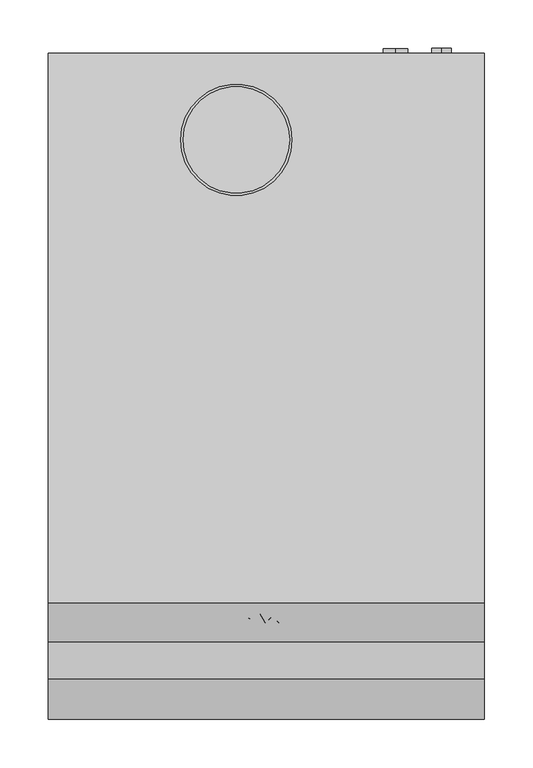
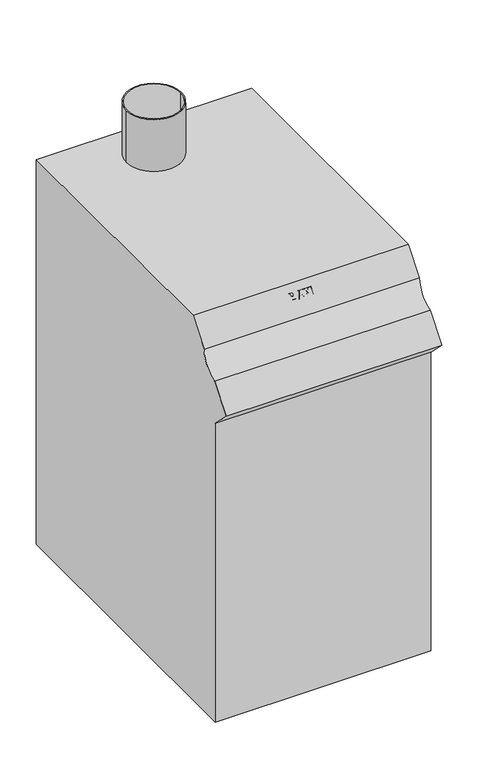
"""IFC4 building model written with IfcOpenShell, lengths in millimetres: proxy geometry, BAXI_ГазовыйКотел_Power_HT_45-150 : BAXI_Газовый котел_Power_HT_1.650."""

import ifcopenshell
import ifcopenshell.guid

model = None  # the IFC model being written
_history = None  # IfcOwnerHistory: only IFC2X3 demands one
_inside = {}  # id of a spatial element -> (the spatial element, [elements in it])
_under = {}  # id of a project, library or spatial element -> (it, [spatial elements below it])
_declared = {}  # id of a project -> (the project, [libraries it declares])
_typed = {}  # id of a type object -> (the type object, [elements of that type])
_made_of = {}  # id of a material, layer set ... -> (it, [elements and type objects made of it])


def new_model(schema):
    """Start an empty IFC model of exactly this schema.

    Asked for "IFC4X3", IfcOpenShell would pick the latest addendum, in which some entities
    have other attributes; the version numbers below select the first issue.
    IFC2X3 requires an IfcOwnerHistory on every rooted entity: one is made here for all.
    """
    global model, _history
    if schema == "IFC4X3":
        model = ifcopenshell.file(schema_version=(4, 3, 0, 0))
    else:
        model = ifcopenshell.file(schema=schema)
    _inside.clear()
    _under.clear()
    _declared.clear()
    _typed.clear()
    _made_of.clear()
    _history = None
    if model.schema == "IFC2X3":
        org = make("IfcOrganization", Name="unknown")
        user = make(
            "IfcPersonAndOrganization",
            ThePerson=make("IfcPerson", FamilyName="unknown"),
            TheOrganization=org,
        )
        app = make(
            "IfcApplication",
            ApplicationDeveloper=org,
            Version="unknown",
            ApplicationFullName="unknown",
            ApplicationIdentifier="unknown",
        )
        _history = make(
            "IfcOwnerHistory",
            OwningUser=user,
            OwningApplication=app,
            ChangeAction="ADDED",
            CreationDate=0,
        )
    return model


def make(cls, **values):
    """One entity of the class cls with the attributes given. An attribute that is None is left unset."""
    return model.create_entity(
        cls, **{name: value for name, value in values.items() if value is not None}
    )


def rooted(cls, **values):
    """An entity with a GlobalId (a new one), such as an element, a storey or a relation."""
    return make(cls, GlobalId=ifcopenshell.guid.new(), OwnerHistory=_history, **values)


def si_unit(unit_type, name, prefix=None):
    """IfcSIUnit, for example si_unit("LENGTHUNIT", "METRE", prefix="MILLI")."""
    return make("IfcSIUnit", UnitType=unit_type, Prefix=prefix, Name=name)


def assignment(units):
    """IfcUnitAssignment: the units of a project."""
    return None if units is None else make("IfcUnitAssignment", Units=units)


def point(xyz):
    """IfcCartesianPoint."""
    return None if xyz is None else make("IfcCartesianPoint", Coordinates=xyz)


def direction(xyz):
    """IfcDirection."""
    return None if xyz is None else make("IfcDirection", DirectionRatios=xyz)


def frame(location, z_axis=None, x_axis=None):
    """IfcAxis2Placement3D, a coordinate frame: its origin and axes. An axis left out is left unset."""
    return make(
        "IfcAxis2Placement3D",
        Location=point(location),
        Axis=direction(z_axis),
        RefDirection=direction(x_axis),
    )


def frame_2d(location, x_axis=None):
    """IfcAxis2Placement2D, a coordinate frame in the plane: its origin and x axis."""
    return make(
        "IfcAxis2Placement2D", Location=point(location), RefDirection=direction(x_axis)
    )


def origin():
    """The frame at (0, 0, 0) with its axes left unset."""
    return frame((0.0, 0.0, 0.0))


def place(relative_to, where):
    """IfcLocalPlacement: puts the frame where relative to a parent placement (None: the world)."""
    return make(
        "IfcLocalPlacement", PlacementRelTo=relative_to, RelativePlacement=where
    )


def context(
    kind, dimensions, precision=None, world=None, true_north=None, identifier=None
):
    """IfcGeometricRepresentationContext, for example the 3D "Model" context."""
    return make(
        "IfcGeometricRepresentationContext",
        ContextIdentifier=identifier,
        ContextType=kind,
        CoordinateSpaceDimension=dimensions,
        Precision=precision,
        WorldCoordinateSystem=world,
        TrueNorth=true_north,
    )


def project(units=None, contexts=None):
    """IfcProject with its units and contexts."""
    return rooted(
        "IfcProject",
        Name="project",
        RepresentationContexts=contexts,
        UnitsInContext=assignment(units),
    )


def spatial(cls, under=None, at=None, **own):
    """A site, building, storey or space (cls), placed at a placement, below another one or the project."""
    s = rooted(cls, ObjectPlacement=at, **own)
    if under is not None:
        _under.setdefault(under.id(), (under, []))[1].append(s)
    return s


def polyline(points):
    """IfcPolyline through the points."""
    return make("IfcPolyline", Points=[point(p) for p in points])


def circle_curve(where, radius):
    """IfcCircle in the frame where."""
    return make("IfcCircle", Position=where, Radius=radius)


def trimmed(basis, trim1, trim2, sense, master):
    """IfcTrimmedCurve: the piece of a basis curve between two trims."""
    return make(
        "IfcTrimmedCurve",
        BasisCurve=basis,
        Trim1=trim1,
        Trim2=trim2,
        SenseAgreement=sense,
        MasterRepresentation=master,
    )


def segment(curve, same_sense, transition):
    """IfcCompositeCurveSegment."""
    return make(
        "IfcCompositeCurveSegment",
        Transition=transition,
        SameSense=same_sense,
        ParentCurve=curve,
    )


def composite_curve(segments, self_intersect=None):
    """IfcCompositeCurve: segments joined end to end."""
    return make("IfcCompositeCurve", Segments=segments, SelfIntersect=self_intersect)


def outline(outer, holes=None, kind="AREA"):
    """IfcArbitraryClosedProfileDef: a profile drawn as a closed curve; with holes, ...WithVoids."""
    if holes is None:
        return make("IfcArbitraryClosedProfileDef", ProfileType=kind, OuterCurve=outer)
    return make(
        "IfcArbitraryProfileDefWithVoids",
        ProfileType=kind,
        OuterCurve=outer,
        InnerCurves=holes,
    )


def extrude(swept, where, along, depth):
    """IfcExtrudedAreaSolid: the profile swept, set in the frame where, extruded along a direction by depth."""
    return make(
        "IfcExtrudedAreaSolid",
        SweptArea=swept,
        Position=where,
        ExtrudedDirection=direction(along),
        Depth=depth,
    )


def shape(context_of_items, identifier, shape_type, items):
    """IfcShapeRepresentation: the items that make up one representation, for example the "Body"."""
    return make(
        "IfcShapeRepresentation",
        ContextOfItems=context_of_items,
        RepresentationIdentifier=identifier,
        RepresentationType=shape_type,
        Items=items,
    )


def source(mapping_origin, context_of_items, identifier, shape_type, items):
    """IfcRepresentationMap: a shape defined once, which mapped items show again and again."""
    return make(
        "IfcRepresentationMap",
        MappingOrigin=mapping_origin,
        MappedRepresentation=shape(context_of_items, identifier, shape_type, items),
    )


def transform(
    local_origin,
    x_axis=None,
    y_axis=None,
    z_axis=None,
    scale=None,
    scale2=None,
    scale3=None,
    uniform=True,
):
    """IfcCartesianTransformationOperator3D, or its non-uniform kind. x_axis, y_axis, z_axis: its Axis1, 2, 3."""
    if uniform:
        return make(
            "IfcCartesianTransformationOperator3D",
            Axis1=direction(x_axis),
            Axis2=direction(y_axis),
            LocalOrigin=point(local_origin),
            Scale=scale,
            Axis3=direction(z_axis),
        )
    return make(
        "IfcCartesianTransformationOperator3DnonUniform",
        Axis1=direction(x_axis),
        Axis2=direction(y_axis),
        LocalOrigin=point(local_origin),
        Scale=scale,
        Axis3=direction(z_axis),
        Scale2=scale2,
        Scale3=scale3,
    )


def mapped(mapping_source, mapping_target):
    """IfcMappedItem: shows the shape of a source again, moved by a transform."""
    return make(
        "IfcMappedItem", MappingSource=mapping_source, MappingTarget=mapping_target
    )


def made_of(thing, what):
    """Note that an element or type object is made of a material, layer set ...; save() writes the relation."""
    if what is not None:
        _made_of.setdefault(what.id(), (what, []))[1].append(thing)
    return thing


def element(
    cls,
    number,
    at=None,
    inside=None,
    cuts=None,
    type_object=None,
    material=None,
    context=None,
    identifier="Body",
    shape_type=None,
    held_by="IfcProductDefinitionShape",
    body=None,
    shapes=None,
    **own,
):
    """One element of the class cls, such as IfcWall. Its Tag is "e" and its number.

    at: its placement. inside: the storey or other place that contains it. cuts: it is an
    opening in that element (IfcRelVoidsElement). A single representation is given by context,
    identifier, shape_type and body (its items); several are given by shapes. held_by: the class
    of the entity that holds the representations. save() writes the other relations.
    """
    e = rooted(cls, Tag="e%d" % number, ObjectPlacement=at, **own)
    if body is not None:
        shapes = [shape(context, identifier, shape_type, body)]
    if shapes is not None:
        e.Representation = make(held_by, Representations=shapes)
    if inside is not None:
        _inside.setdefault(inside.id(), (inside, []))[1].append(e)
    if cuts is not None:
        rooted(
            "IfcRelVoidsElement", RelatingBuildingElement=cuts, RelatedOpeningElement=e
        )
    if type_object is not None:
        _typed.setdefault(type_object.id(), (type_object, []))[1].append(e)
    return made_of(e, material)


def aggregate(whole, parts):
    """IfcRelAggregates: a whole, such as a stair, and the parts it consists of."""
    return rooted("IfcRelAggregates", RelatingObject=whole, RelatedObjects=parts)


def save(model, path):
    """Write the relations noted so far, then the file.

    IfcRelAggregates (storeys below a building ...), IfcRelContainedInSpatialStructure (elements
    in a storey), IfcRelDefinesByType, IfcRelAssociatesMaterial and IfcRelDeclares: one each for
    every whole, place, type object, material and project.
    """
    for whole, parts in _under.values():
        aggregate(whole, parts)
    for where, things in _inside.values():
        rooted(
            "IfcRelContainedInSpatialStructure",
            RelatedElements=things,
            RelatingStructure=where,
        )
    for kind, things in _typed.values():
        rooted("IfcRelDefinesByType", RelatedObjects=things, RelatingType=kind)
    for what, things in _made_of.values():
        rooted("IfcRelAssociatesMaterial", RelatedObjects=things, RelatingMaterial=what)
    for by, libraries in _declared.values():
        rooted("IfcRelDeclares", RelatingContext=by, RelatedDefinitions=libraries)
    model.write(path)


def mechanical_equipment_6a41e5de(model_context):
    return source(origin(), model_context, "Body", "SweptSolid", [
        extrude(outline(composite_curve([segment(polyline([(-5.0, 850.0), (-5.0, 0.0), (-653.0, 0.0), (-653.0, 660.0), (-693.0, 700.0), (-651.2660851, 752.0109492)]), True, "CONTINUOUS"), segment(trimmed(circle_curve(frame_2d((-663.6738547, 801.4105648)), 50.9340237), [point((-651.2660851, 752.0109492))], [point((-612.7593668, 800.0))], True, "CARTESIAN"), True, "CONTINUOUS"), segment(polyline([(-612.7593668, 800.0), (-572.6390502, 850.0), (-5.0, 850.0)]), True, "CONTINUOUS")], self_intersect=False)), frame((-225.0, 0.0, 0.0), z_axis=(1.0, 0.0, 0.0), x_axis=(0.0, 1.0, 0.0)), (0.0, 0.0, 1.0), 450.0),
        extrude(outline(composite_curve([segment(trimmed(circle_curve(frame_2d((346.0, 133.5)), 12.5), [point((333.5, 133.5))], [point((358.5, 133.5))], False, "CARTESIAN"), True, "CONTINUOUS"), segment(trimmed(circle_curve(frame_2d((346.0, 133.5)), 12.5), [point((358.5, 133.5))], [point((333.5, 133.5))], False, "CARTESIAN"), True, "CONTINUOUS")], self_intersect=False)), frame((0.0, -94.5, 0.0), z_axis=(0.0, 1.0, 0.0), x_axis=(0.0, 0.0, 1.0)), (0.0, 0.0, 1.0), 94.5),
        extrude(outline(composite_curve([segment(trimmed(circle_curve(frame_2d((186.0, 133.5)), 12.5), [point((173.5, 133.5))], [point((198.5, 133.5))], False, "CARTESIAN"), True, "CONTINUOUS"), segment(trimmed(circle_curve(frame_2d((186.0, 133.5)), 12.5), [point((198.5, 133.5))], [point((173.5, 133.5))], False, "CARTESIAN"), True, "CONTINUOUS")], self_intersect=False)), frame((0.0, -94.5, 0.0), z_axis=(0.0, 1.0, 0.0), x_axis=(0.0, 0.0, 1.0)), (0.0, 0.0, 1.0), 94.5),
        extrude(outline(composite_curve([segment(trimmed(circle_curve(frame_2d((476.0, 181.0)), 10.0), [point((466.0, 181.0))], [point((486.0, 181.0))], False, "CARTESIAN"), True, "CONTINUOUS"), segment(trimmed(circle_curve(frame_2d((476.0, 181.0)), 10.0), [point((486.0, 181.0))], [point((466.0, 181.0))], False, "CARTESIAN"), True, "CONTINUOUS")], self_intersect=False)), frame((0.0, -94.5, 0.0), z_axis=(0.0, 1.0, 0.0), x_axis=(0.0, 0.0, 1.0)), (0.0, 0.0, 1.0), 94.5),
        extrude(outline(composite_curve([segment(trimmed(circle_curve(frame_2d((65.3668634, 133.5)), 10.0), [point((55.3668634, 133.5))], [point((75.3668634, 133.5))], False, "CARTESIAN"), True, "CONTINUOUS"), segment(trimmed(circle_curve(frame_2d((65.3668634, 133.5)), 10.0), [point((75.3668634, 133.5))], [point((55.3668634, 133.5))], False, "CARTESIAN"), True, "CONTINUOUS")], self_intersect=False)), frame((0.0, -94.5, 0.0), z_axis=(0.0, 1.0, 0.0), x_axis=(0.0, 0.0, 1.0)), (0.0, 0.0, 1.0), 94.5),
        extrude(outline(composite_curve([segment(trimmed(circle_curve(frame_2d((-31.0, -94.5)), 57.5), [point((-88.5, -94.5))], [point((26.5, -94.5))], False, "CARTESIAN"), True, "CONTINUOUS"), segment(trimmed(circle_curve(frame_2d((-31.0, -94.5)), 57.5), [point((26.5, -94.5))], [point((-88.5, -94.5))], False, "CARTESIAN"), True, "CONTINUOUS")], self_intersect=False), holes=[composite_curve([segment(trimmed(circle_curve(frame_2d((-31.0, -94.5)), 55.0), [point((-86.0, -94.5))], [point((24.0, -94.5))], True, "CARTESIAN"), True, "CONTINUOUS"), segment(trimmed(circle_curve(frame_2d((-31.0, -94.5)), 55.0), [point((24.0, -94.5))], [point((-86.0, -94.5))], True, "CARTESIAN"), True, "CONTINUOUS")], self_intersect=False)]), frame((0.0, 0.0, 850.0), z_axis=(0.0, 0.0, 1.0), x_axis=(1.0, 0.0, 0.0)), (0.0, 0.0, 1.0), 115.0),
        extrude(outline(polyline([(0.0, 0.0), (6.281731, 0.0), (9.0620138, -0.1518243), (10.7017164, -0.7875886), (11.9068219, -2.0742997), (12.3888641, -3.8753157), (11.8138295, -5.856623), (10.2519369, -7.211655), (12.1952881, -8.5932563), (12.8747019, -10.889599), (12.3869663, -12.9107602), (11.054708, -14.4783463), (8.972817, -15.2014096), (5.2303477, -15.303891), (0.0, -15.303891), (0.0, 0.0)]), holes=[polyline([(2.9150268, -2.6721079), (2.9150268, -6.0729726), (5.1392531, -6.0729726), (7.6063982, -6.0236297), (4.8659693, -2.6721079), (2.9150268, -2.6721079)]), polyline([(2.9150268, -8.7450806), (2.9150268, -12.631783), (5.9970604, -12.631783), (8.2820164, -12.5406884), (5.6061128, -8.7450806), (2.9150268, -8.7450806)])]), frame((-29.1315163, -579.4782546, 833.487354), z_axis=(0.0, -0.779952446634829, 0.6258387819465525), x_axis=(1.0, 0.0, 0.0)), (0.0, 0.0, 1.0), 5.0),
        extrude(outline(polyline([(0.0, 0.0), (3.0630555, 0.0), (4.2624676, -3.4008647), (10.0431784, -3.4008647), (11.2274081, 0.0), (14.3322153, 0.0), (8.7450805, -15.303891), (5.6402733, -15.303891), (0.0, 0.0)]), holes=[polyline([(5.1961872, -6.0729726), (7.1661077, -11.6601074), (9.1094589, -6.0729726), (5.1961872, -6.0729726)])]), frame((-0.9529234, -589.0560231, 821.5510468), z_axis=(0.0, -0.779952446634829, 0.6258387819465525), x_axis=(-1.0, 0.0, 0.0)), (0.0, 0.0, 1.0), 5.0),
        extrude(outline(polyline([(0.0, 0.0), (9.5718736, 0.0), (13.0938513, 7.9370131), (14.9522751, 5.079771), (12.6996984, 0.0014133), (18.2552198, 0.0016435), (20.1136436, -2.8555986), (11.4302974, -2.8572421), (7.549588, -11.6071484), (5.6911642, -8.7499063), (8.3056546, -2.8565859), (1.8584238, -2.8572421), (0.0, 0.0)])), frame((-0.8314639, -589.0560231, 821.5510468), z_axis=(0.0, -0.779952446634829, 0.6258387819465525), x_axis=(0.5452392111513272, 0.5246284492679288, 0.6538189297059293)), (0.0, 0.0, 1.0), 5.0),
        extrude(outline(polyline([(0.0, -2.9150269), (0.0, 0.0), (5.0, 0.0), (5.0, -2.9150269), (0.0, -2.9150269)])), frame((17.5089134, -589.0560231, 821.5510468), z_axis=(0.0, 0.625838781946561, 0.7799524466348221), x_axis=(0.0, -0.7799524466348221, 0.625838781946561)), (0.0, 0.0, 1.0), 15.303891),
    ])


if __name__ == "__main__":
    model = new_model("IFC4")
    model_context = context("Model", 3, world=origin())
    ifc_project = project(units=[si_unit("LENGTHUNIT", "METRE", prefix="MILLI")], contexts=[model_context])
    site = spatial("IfcSite", under=ifc_project)
    building = spatial("IfcBuilding", under=site)
    placement = place(None, origin())
    mechanical_equipment_shape = mechanical_equipment_6a41e5de(model_context)
    element("IfcBuildingElementProxy", 1, Name="BAXI_ГазовыйКотел_Power_HT_45-150 : BAXI_Газовый котел_Power_HT_1.650", ObjectType="BAXI_ГазовыйКотел_Power_HT_45-150 : BAXI_Газовый котел_Power_HT_1.650", at=placement, inside=building, context=model_context, shape_type="MappedRepresentation", body=[
        mapped(mechanical_equipment_shape, transform((0.0, 0.0, 0.0), x_axis=(1.0, 0.0, 0.0), y_axis=(0.0, 1.0, 0.0), z_axis=(0.0, 0.0, 1.0))),
    ])
    save(model, "model.ifc")
